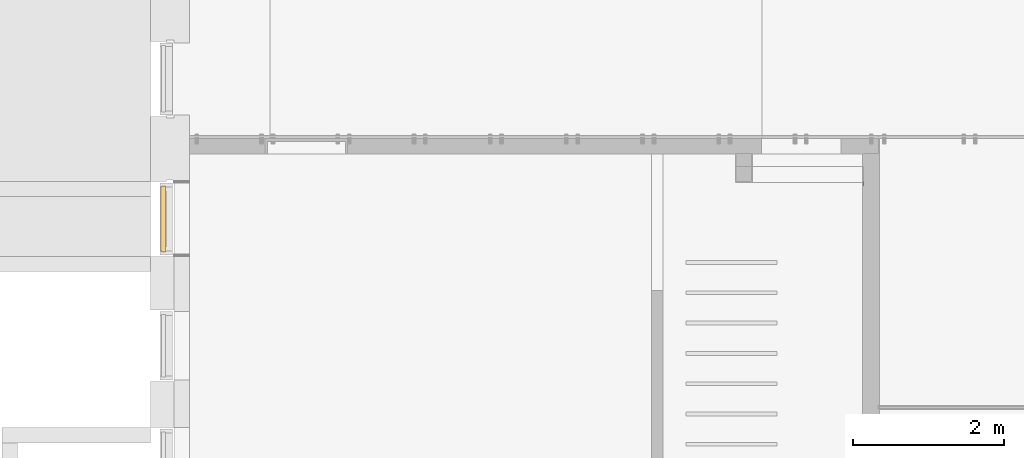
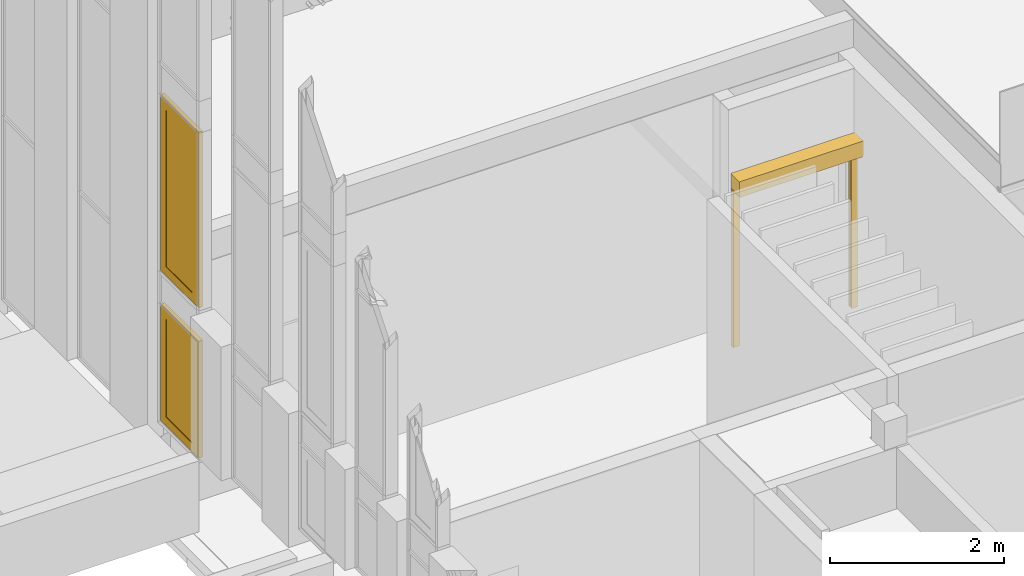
# One storey, part 158 of 246: 2 windows, 1 door, 1 element without a shape of its own.
"""IFC2X3 building model written with IfcOpenShell, lengths in millimetres."""

from ifc_helpers import new_model, entity, si_unit, converted_unit, derived_unit, money_unit, direction, frame, origin_with_axes, place, context, subcontext, project, spatial, open_shell, faceted_brep, surface_model, material, material_list, type_object, element, aggregate, save


model = new_model("IFC2X3")

# Units and contexts
model_context = context("Model", 3, precision=0.01, world=origin_with_axes(), true_north=direction((0.0, 1.0)))
body_context = subcontext(model_context, "Body", "Model", "MODEL_VIEW")
ifc_project = project(units=[si_unit("LENGTHUNIT", "METRE", prefix="MILLI"), si_unit("AREAUNIT", "SQUARE_METRE"), si_unit("VOLUMEUNIT", "CUBIC_METRE"), converted_unit("PLANEANGLEUNIT", "DEGREE", entity("IfcPlaneAngleMeasure", 0.0174532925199), si_unit("PLANEANGLEUNIT", "RADIAN"), dimensions=[0, 0, 0, 0, 0, 0, 0]), si_unit("SOLIDANGLEUNIT", "STERADIAN"), money_unit("EUR"), converted_unit("TIMEUNIT", "Year", entity("IfcTimeMeasure", 31556926.0), si_unit("TIMEUNIT", "SECOND"), dimensions=[0, 0, 1, 0, 0, 0, 0]), si_unit("MASSUNIT", "GRAM", prefix="KILO"), si_unit("THERMODYNAMICTEMPERATUREUNIT", "DEGREE_CELSIUS"), si_unit("LUMINOUSINTENSITYUNIT", "LUMEN"), si_unit("ENERGYUNIT", "JOULE", prefix="MEGA"), derived_unit("THERMALCONDUCTANCEUNIT", [(si_unit("POWERUNIT", "WATT"), 1), (si_unit("LENGTHUNIT", "METRE"), -1), (si_unit("THERMODYNAMICTEMPERATUREUNIT", "KELVIN"), -1)]), derived_unit("SPECIFICHEATCAPACITYUNIT", [(si_unit("ENERGYUNIT", "JOULE"), 1), (si_unit("MASSUNIT", "GRAM", prefix="KILO"), -1), (si_unit("THERMODYNAMICTEMPERATUREUNIT", "KELVIN"), -1)]), derived_unit("MASSDENSITYUNIT", [(si_unit("MASSUNIT", "GRAM", prefix="KILO"), 1), (si_unit("VOLUMEUNIT", "CUBIC_METRE"), -1)])], contexts=[model_context])

# Site, building, storey
site_placement = place(None, origin_with_axes())
site = spatial("IfcSite", under=ifc_project, at=site_placement, Name="L.Koidula tn 11b", CompositionType="ELEMENT")
building_placement = place(site_placement, origin_with_axes())
building = spatial("IfcBuilding", under=site, at=building_placement, Name="Rakvere Riigigümnaasium", CompositionType="ELEMENT")
storey_placement = place(building_placement, origin_with_axes())
storey = spatial("IfcBuildingStorey", under=building, at=storey_placement, Name="1.korrus 0,00", CompositionType="ELEMENT", Elevation=0.0)

# Door
ifc_material_1 = material(Name="Steel - Stainless")
door_style = type_object("IfcDoorStyle", Name="TTkardin-02(3)", ConstructionType="NOTDEFINED", OperationType="NOTDEFINED", ParameterTakesPrecedence=False, Sizeable=False)
door_placement = place(storey_placement, frame((42749.9999911, 30930.4555111, 0.0), z_axis=(0.0, 0.0, 1.0), x_axis=(-1.0, 0.0, 0.0)))
element("IfcDoor", 1, at=door_placement, inside=storey, type_object=door_style, material=ifc_material_1, Name="TTK-02", ObjectType="DOOR", context=body_context, shape_type="Brep", body=[
    faceted_brep([(-1643.80160542, 39.5255415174, 2294.78071007), (-1643.80160542, 54.6440685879, 2272.15423369), (-6.19839458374, 54.6440685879, 2272.15423369), (-6.19839458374, 39.5255415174, 2294.78071007), (-1643.80160542, 34.2166208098, 2321.47045874), (-1643.80160542, 39.5255415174, 2348.16020741), (-1643.80160542, 54.6440685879, 2370.78668378), (-1643.80160542, 77.2705433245, 2385.90521195), (-1643.80160542, 103.960290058, 2391.21413304), (-1643.80160542, 130.650036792, 2385.90521195), (-1643.80160542, 153.276511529, 2370.78668378), (-1643.80160542, 168.395038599, 2348.16020741), (-1643.80160542, 173.703959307, 2321.47045874), (-1643.80160542, 168.395038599, 2294.78071007), (-1643.80160542, 153.276511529, 2272.15423369), (-1643.80160542, 130.650036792, 2257.03570553), (-1643.80160542, 103.960290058, 2251.72678443), (-1643.80160542, 77.2705433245, 2257.03570553), (-6.19839458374, 77.2705433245, 2257.03570553), (-6.19839458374, 103.960290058, 2251.72678443), (-6.19839458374, 130.650036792, 2257.03570553), (-6.19839458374, 153.276511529, 2272.15423369), (-6.19839458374, 168.395038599, 2294.78071007), (-6.19839458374, 173.703959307, 2321.47045874), (-6.19839458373, 168.395038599, 2348.16020741), (-6.19839458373, 153.276511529, 2370.78668378), (-6.19839458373, 130.650036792, 2385.90521195), (-6.19839458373, 103.960290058, 2391.21413304), (-6.19839458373, 77.2705433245, 2385.90521195), (-6.19839458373, 54.6440685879, 2370.78668378), (-6.19839458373, 39.5255415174, 2348.16020741), (-6.19839458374, 34.2166208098, 2321.47045874)], [[[0, 1, 2, 3]], [[4, 5, 6, 7, 8, 9, 10, 11, 12, 13, 14, 15, 16, 17, 1, 0]], [[1, 17, 18, 2]], [[2, 18, 19, 20, 21, 22, 23, 24, 25, 26, 27, 28, 29, 30, 31, 3]], [[3, 31, 4, 0]], [[31, 30, 5, 4]], [[30, 29, 6, 5]], [[29, 28, 7, 6]], [[28, 27, 8, 7]], [[9, 8, 27, 26]], [[26, 25, 10, 9]], [[25, 24, 11, 10]], [[12, 11, 24, 23]], [[13, 12, 23, 22]], [[14, 13, 22, 21]], [[15, 14, 21, 20]], [[16, 15, 20, 19]], [[18, 17, 16, 19]]]),
    faceted_brep([(-1643.80160542, 7.27299842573e-06, 2200.0), (-1643.80160542, 10.4360886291, 2200.0), (-6.19839458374, 10.4360886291, 2200.0), (-6.19839458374, 7.27299931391e-06, 2200.0), (-1643.80160542, 7.27299864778e-06, 2419.82672386), (-1643.80160542, 200.597999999, 2419.82672386), (-1643.80160542, 200.597999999, 2200.0), (-1643.80160542, 56.1417102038, 2200.0), (-1643.80160542, 56.1417102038, 2205.0), (-1643.80160542, 195.598000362, 2205.0), (-1643.80160542, 195.598000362, 2414.82672386), (-1643.80160542, 5.00000691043, 2414.82672386), (-1643.80160542, 5.00000691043, 2205.0), (-1643.80160542, 10.4360886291, 2205.0), (-6.19839458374, 10.4360886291, 2205.0), (-6.19839458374, 5.00000691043, 2205.0), (-6.19839458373, 5.00000691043, 2414.82672386), (-6.19839458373, 195.598000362, 2414.82672386), (-6.19839458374, 195.598000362, 2205.0), (-6.19839458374, 56.1417102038, 2205.0), (-6.19839458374, 56.1417102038, 2200.0), (-6.19839458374, 200.597999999, 2200.0), (-6.19839458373, 200.597999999, 2419.82672386), (-6.19839458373, 7.27299953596e-06, 2419.82672386)], [[[0, 1, 2, 3]], [[4, 5, 6, 7, 8, 9, 10, 11, 12, 13, 1, 0]], [[1, 13, 14, 2]], [[3, 2, 14, 15, 16, 17, 18, 19, 20, 21, 22, 23]], [[3, 23, 4, 0]], [[23, 22, 5, 4]], [[6, 5, 22, 21]], [[7, 6, 21, 20]], [[20, 19, 8, 7]], [[19, 18, 9, 8]], [[18, 17, 10, 9]], [[11, 10, 17, 16]], [[16, 15, 12, 11]], [[15, 14, 13, 12]]]),
    faceted_brep([(-1570.40199273, 10.4360886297, 0.0), (-1570.40199273, 10.4360886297, 2200.0), (-1570.40199273, 7.27360949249e-06, 2200.0), (-1570.40199273, 7.27360949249e-06, 0.0), (-1570.40199273, 29.245245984, 0.0), (-1570.40199273, 29.245245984, 2200.0), (-1573.40199273, 29.245245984, 2200.0), (-1573.40199273, 3.00000705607, 2200.0), (-1647.0, 3.00000705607, 2200.0), (-1647.0, 56.8267270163, 2200.0), (-1573.40199273, 56.8267270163, 2200.0), (-1573.40199273, 37.288899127, 2200.0), (-1570.40199273, 37.288899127, 2200.0), (-1570.40199273, 56.1417102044, 2200.0), (-1570.40199273, 59.8267267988, 2200.0), (-1650.0, 59.8267267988, 2200.0), (-1650.0, 7.27360949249e-06, 2200.0), (-1650.0, 7.27360949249e-06, 0.0), (-1650.0, 59.8267267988, 0.0), (-1570.40199273, 59.8267267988, 0.0), (-1570.40199273, 56.1417102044, 0.0), (-1570.40199273, 37.288899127, 0.0), (-1573.40199273, 37.288899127, 0.0), (-1573.40199273, 56.8267270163, 0.0), (-1647.0, 56.8267270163, 0.0), (-1647.0, 3.00000705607, 0.0), (-1573.40199273, 3.00000705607, 0.0), (-1573.40199273, 29.245245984, 0.0)], [[[0, 1, 2, 3]], [[4, 5, 1, 0]], [[1, 5, 6, 7, 8, 9, 10, 11, 12, 13, 14, 15, 16, 2]], [[3, 2, 16, 17]], [[3, 17, 18, 19, 20, 21, 22, 23, 24, 25, 26, 27, 4, 0]], [[27, 6, 5, 4]], [[7, 6, 27, 26]], [[25, 8, 7, 26]], [[24, 9, 8, 25]], [[10, 9, 24, 23]], [[22, 11, 10, 23]], [[21, 12, 11, 22]], [[20, 13, 12, 21]], [[19, 14, 13, 20]], [[19, 18, 15, 14]], [[16, 15, 18, 17]]]),
    faceted_brep([(-79.5980072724, 10.4360886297, 0.0), (-79.5980072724, 7.27360949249e-06, 0.0), (-79.5980072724, 7.27360949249e-06, 2200.0), (-79.5980072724, 10.4360886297, 2200.0), (-79.5980072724, 29.245245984, 0.0), (-76.5980072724, 29.245245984, 0.0), (-76.5980072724, 3.00000705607, 0.0), (-3.0, 3.00000705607, 0.0), (-3.0, 56.8267270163, 0.0), (-76.5980072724, 56.8267270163, 0.0), (-76.5980072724, 37.288899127, 0.0), (-79.5980072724, 37.288899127, 0.0), (-79.5980072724, 56.1417102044, 0.0), (-79.5980072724, 59.8267267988, 0.0), (0.0, 59.8267267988, 0.0), (0.0, 7.27360949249e-06, 0.0), (0.0, 7.27360949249e-06, 2200.0), (0.0, 59.8267267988, 2200.0), (-79.5980072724, 59.8267267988, 2200.0), (-79.5980072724, 56.1417102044, 2200.0), (-79.5980072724, 37.288899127, 2200.0), (-76.5980072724, 37.288899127, 2200.0), (-76.5980072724, 56.8267270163, 2200.0), (-3.0, 56.8267270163, 2200.0), (-3.0, 3.00000705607, 2200.0), (-76.5980072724, 3.00000705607, 2200.0), (-76.5980072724, 29.245245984, 2200.0), (-79.5980072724, 29.245245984, 2200.0)], [[[0, 1, 2, 3]], [[1, 0, 4, 5, 6, 7, 8, 9, 10, 11, 12, 13, 14, 15]], [[1, 15, 16, 2]], [[3, 2, 16, 17, 18, 19, 20, 21, 22, 23, 24, 25, 26, 27]], [[4, 0, 3, 27]], [[5, 4, 27, 26]], [[25, 6, 5, 26]], [[7, 6, 25, 24]], [[8, 7, 24, 23]], [[22, 9, 8, 23]], [[10, 9, 22, 21]], [[11, 10, 21, 20]], [[12, 11, 20, 19]], [[13, 12, 19, 18]], [[13, 18, 17, 14]], [[16, 15, 14, 17]]]),
    faceted_brep([(-1643.80160542, 200.598, 2218.82672386), (-1643.80160542, 200.598, 2419.82672386), (-1643.80160542, 5.99964522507e-10, 2419.82672386), (-1643.80160542, 5.99964522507e-10, 2218.82672386), (-1650.0, 200.598, 2218.82672386), (-1650.0, 200.598, 2419.82672386), (-1650.0, 5.99964522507e-10, 2419.82672386), (-1650.0, 5.99964522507e-10, 2218.82672386)], [[[0, 1, 2, 3]], [[1, 0, 4, 5]], [[1, 5, 6, 2]], [[6, 7, 3, 2]], [[3, 7, 4, 0]], [[6, 5, 4, 7]]]),
    faceted_brep([(0.0, 200.598007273, 2218.82672386), (0.0, 200.598007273, 2419.82672386), (0.0, 7.27359927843e-06, 2419.82672386), (0.0, 7.27359927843e-06, 2218.82672386), (-6.19839458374, 200.598007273, 2218.82672386), (-6.19839458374, 200.598007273, 2419.82672386), (-6.19839458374, 7.27359927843e-06, 2419.82672386), (-6.19839458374, 7.27359927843e-06, 2218.82672386)], [[[0, 1, 2, 3]], [[1, 0, 4, 5]], [[1, 5, 6, 2]], [[6, 7, 3, 2]], [[3, 7, 4, 0]], [[6, 5, 4, 7]]]),
])

# Curtain wall, windows
curtain_wall_type = type_object("IfcCurtainWallType", Name="Curtain Wall Type", PredefinedType="NOTDEFINED")
curtain_wall_placement = place(storey_placement, frame((35156.0871538, 30435.4555151, 1604.94683277), z_axis=(0.0, 0.0, 1.0), x_axis=(1.0, 0.0, 0.0)))
curtain_wall = element("IfcCurtainWall", 2, at=curtain_wall_placement, inside=storey, type_object=curtain_wall_type, Name="KLF-04-01")
ifc_material_2 = material(Name="Alumiiniumprofiil (RAL 7021)")
ifc_material_3 = material(Name="Klaaspakett 3x")
ifc_material_list = material_list([ifc_material_2, ifc_material_3])
window_style_1 = type_object("IfcWindowStyle", Name="876 x 2476 x 54", ConstructionType="NOTDEFINED", OperationType="NOTDEFINED", ParameterTakesPrecedence=False, Sizeable=False)
window_1_placement = place(curtain_wall_placement, frame((0.0, 0.0, 3390.00006988), z_axis=(0.0, 0.0, 1.0), x_axis=(0.0, 1.0, 0.0)))
window_1 = element("IfcWindow", 3, at=window_1_placement, type_object=window_style_1, material=ifc_material_list, Name="KLF-04-A-1", ObjectType="WINDOW", context=body_context, shape_type="SurfaceModel", body=[
    surface_model("IfcShellBasedSurfaceModel", [(425.000067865, 36.0, -1225.0), (371.000067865, 36.0, -1171.0), (-371.000081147, 36.0, -1171.0), (-425.000081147, 36.0, -1225.0)], [open_shell([[[0, 1, 2, 3]]])]),
    surface_model("IfcShellBasedSurfaceModel", [(-425.000081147, 36.0, -1225.0), (-371.000081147, 36.0, -1171.0), (-371.000081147, 36.0, 1171.0), (-425.000081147, 36.0, 1225.0)], [open_shell([[[0, 1, 2, 3]]])]),
    surface_model("IfcShellBasedSurfaceModel", [(425.000067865, 36.0, 1225.0), (-425.000081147, 36.0, 1225.0), (-371.000081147, 36.0, 1171.0), (371.000067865, 36.0, 1171.0)], [open_shell([[[0, 1, 2, 3]]])]),
    surface_model("IfcShellBasedSurfaceModel", [(425.000067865, 36.0, -1225.0), (425.000067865, 36.0, 1225.0), (371.000067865, 36.0, 1171.0), (371.000067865, 36.0, -1171.0)], [open_shell([[[0, 1, 2, 3]]])]),
    faceted_brep([(425.000067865, -34.0, -1225.0), (-425.000081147, -34.0, -1225.0), (-425.000081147, 36.0, -1225.0), (425.000067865, 36.0, -1225.0), (371.000067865, -34.0, -1171.0), (-371.000081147, -34.0, -1171.0), (-371.000081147, 36.0, -1171.0), (371.000067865, 36.0, -1171.0)], [[[0, 1, 2, 3]], [[0, 4, 5, 1]], [[1, 5, 6, 2]], [[3, 2, 6, 7]], [[4, 0, 3, 7]], [[5, 4, 7, 6]]]),
    faceted_brep([(-425.000081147, -34.0, -1225.0), (-425.000081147, -34.0, 1225.0), (-425.000081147, 36.0, 1225.0), (-425.000081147, 36.0, -1225.0), (-371.000081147, -34.0, -1171.0), (-371.000081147, -34.0, 1171.0), (-371.000081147, 36.0, 1171.0), (-371.000081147, 36.0, -1171.0)], [[[0, 1, 2, 3]], [[0, 4, 5, 1]], [[1, 5, 6, 2]], [[3, 2, 6, 7]], [[4, 0, 3, 7]], [[5, 4, 7, 6]]]),
    faceted_brep([(425.000067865, -34.0, 1225.0), (371.000067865, -34.0, 1171.0), (371.000067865, 36.0, 1171.0), (425.000067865, 36.0, 1225.0), (-425.000081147, -34.0, 1225.0), (-371.000081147, -34.0, 1171.0), (-371.000081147, 36.0, 1171.0), (-425.000081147, 36.0, 1225.0)], [[[0, 1, 2, 3]], [[0, 4, 5, 1]], [[1, 5, 6, 2]], [[3, 2, 6, 7]], [[4, 0, 3, 7]], [[5, 4, 7, 6]]]),
    faceted_brep([(425.000067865, -34.0, -1225.0), (371.000067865, -34.0, -1171.0), (371.000067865, 36.0, -1171.0), (425.000067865, 36.0, -1225.0), (425.000067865, -34.0, 1225.0), (371.000067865, -34.0, 1171.0), (371.000067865, 36.0, 1171.0), (425.000067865, 36.0, 1225.0)], [[[0, 1, 2, 3]], [[0, 4, 5, 1]], [[1, 5, 6, 2]], [[3, 2, 6, 7]], [[4, 0, 3, 7]], [[5, 4, 7, 6]]]),
    faceted_brep([(438.000076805, -27.0, -1238.00000894), (-438.000052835, -27.0, -1238.00000894), (-438.000052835, 27.0, -1238.00000894), (438.000076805, 27.0, -1238.00000894), (425.000067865, -27.0, -1225.0), (-425.000081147, -27.0, -1225.0), (-425.000081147, 27.0, -1225.0), (425.000067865, 27.0, -1225.0)], [[[0, 1, 2, 3]], [[0, 4, 5, 1]], [[1, 5, 6, 2]], [[3, 2, 6, 7]], [[4, 0, 3, 7]], [[5, 4, 7, 6]]]),
    faceted_brep([(-438.000052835, -27.0, -1238.00000894), (-438.000052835, -27.0, 1238.00000894), (-438.000052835, 27.0, 1238.00000894), (-438.000052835, 27.0, -1238.00000894), (-425.000081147, -27.0, -1225.0), (-425.000081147, -27.0, 1225.0), (-425.000081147, 27.0, 1225.0), (-425.000081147, 27.0, -1225.0)], [[[0, 1, 2, 3]], [[0, 4, 5, 1]], [[1, 5, 6, 2]], [[3, 2, 6, 7]], [[4, 0, 3, 7]], [[5, 4, 7, 6]]]),
    faceted_brep([(-438.000052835, -27.0, 1238.00000894), (438.000076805, -27.0, 1238.00000894), (438.000076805, 27.0, 1238.00000894), (-438.000052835, 27.0, 1238.00000894), (-425.000081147, -27.0, 1225.0), (425.000067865, -27.0, 1225.0), (425.000067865, 27.0, 1225.0), (-425.000081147, 27.0, 1225.0)], [[[0, 1, 2, 3]], [[0, 4, 5, 1]], [[1, 5, 6, 2]], [[3, 2, 6, 7]], [[4, 0, 3, 7]], [[5, 4, 7, 6]]]),
    faceted_brep([(438.000076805, -27.0, 1238.00000894), (438.000076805, -27.0, -1238.00000894), (438.000076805, 27.0, -1238.00000894), (438.000076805, 27.0, 1238.00000894), (425.000067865, -27.0, 1225.0), (425.000067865, -27.0, -1225.0), (425.000067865, 27.0, -1225.0), (425.000067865, 27.0, 1225.0)], [[[0, 1, 2, 3]], [[0, 4, 5, 1]], [[1, 5, 6, 2]], [[3, 2, 6, 7]], [[4, 0, 3, 7]], [[5, 4, 7, 6]]]),
    faceted_brep([(303.000067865, 36.0, -1103.0), (303.000067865, -44.0, -1103.0), (303.000067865, -44.0, 1103.0), (303.000067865, 36.0, 1103.0), (371.000067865, 36.0, -1171.0), (371.000067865, -44.0, -1171.0), (371.000067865, -44.0, 1171.0), (371.000067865, 36.0, 1171.0)], [[[0, 1, 2, 3]], [[4, 5, 1, 0]], [[1, 5, 6, 2]], [[3, 2, 6, 7]], [[0, 3, 7, 4]], [[7, 6, 5, 4]]]),
    faceted_brep([(-371.000081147, 36.0, -1171.0), (-371.000081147, -44.0, -1171.0), (-371.000081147, -44.0, 1171.0), (-371.000081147, 36.0, 1171.0), (-303.000081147, 36.0, -1103.0), (-303.000081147, -44.0, -1103.0), (-303.000081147, -44.0, 1103.0), (-303.000081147, 36.0, 1103.0)], [[[0, 1, 2, 3]], [[4, 5, 1, 0]], [[1, 5, 6, 2]], [[3, 2, 6, 7]], [[0, 3, 7, 4]], [[7, 6, 5, 4]]]),
    faceted_brep([(-371.000081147, 36.0, -1171.0), (-371.000081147, -44.0, -1171.0), (-303.000081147, -44.0, -1103.0), (-303.000081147, 36.0, -1103.0), (371.000067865, 36.0, -1171.0), (371.000067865, -44.0, -1171.0), (303.000067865, -44.0, -1103.0), (303.000067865, 36.0, -1103.0)], [[[0, 1, 2, 3]], [[4, 5, 1, 0]], [[1, 5, 6, 2]], [[3, 2, 6, 7]], [[0, 3, 7, 4]], [[7, 6, 5, 4]]]),
    faceted_brep([(371.000067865, 36.0, 1171.0), (371.000067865, -44.0, 1171.0), (303.000067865, -44.0, 1103.0), (303.000067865, 36.0, 1103.0), (-371.000081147, 36.0, 1171.0), (-371.000081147, -44.0, 1171.0), (-303.000081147, -44.0, 1103.0), (-303.000081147, 36.0, 1103.0)], [[[0, 1, 2, 3]], [[4, 5, 1, 0]], [[1, 5, 6, 2]], [[3, 2, 6, 7]], [[0, 3, 7, 4]], [[7, 6, 5, 4]]]),
    faceted_brep([(303.000067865, 27.0, -1103.0), (303.000067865, 11.0, -1103.0), (-303.000081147, 11.0, -1103.0), (-303.000081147, 27.0, -1103.0), (303.000067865, 27.0, 1103.0), (303.000067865, 11.0, 1103.0), (-303.000081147, 11.0, 1103.0), (-303.000081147, 27.0, 1103.0)], [[[0, 1, 2, 3]], [[4, 5, 1, 0]], [[1, 5, 6, 2]], [[3, 2, 6, 7]], [[0, 3, 7, 4]], [[7, 6, 5, 4]]]),
])
window_style_2 = type_object("IfcWindowStyle", Name="876 x 1646 x 54", ConstructionType="NOTDEFINED", OperationType="NOTDEFINED", ParameterTakesPrecedence=False, Sizeable=False)
window_2_placement = place(curtain_wall_placement, frame((0.0, -2.79233347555e-06, 847.500034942), z_axis=(0.0, 0.0, 1.0), x_axis=(0.0, 1.0, 0.0)))
window_2 = element("IfcWindow", 4, at=window_2_placement, type_object=window_style_2, material=ifc_material_list, Name="KLF-04-A-2", ObjectType="WINDOW", context=body_context, shape_type="SurfaceModel", body=[
    surface_model("IfcShellBasedSurfaceModel", [(425.000058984, 36.0, -797.500023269), (371.000058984, 36.0, -743.500023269), (-371.00006368, 36.0, -743.500023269), (-425.00006368, 36.0, -797.500023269)], [open_shell([[[0, 1, 2, 3]]])]),
    surface_model("IfcShellBasedSurfaceModel", [(-425.00006368, 36.0, -797.500023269), (-371.00006368, 36.0, -743.500023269), (-371.00006368, 36.0, 768.500041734), (-425.00006368, 36.0, 822.500041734)], [open_shell([[[0, 1, 2, 3]]])]),
    surface_model("IfcShellBasedSurfaceModel", [(425.000058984, 36.0, 822.500041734), (-425.00006368, 36.0, 822.500041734), (-371.00006368, 36.0, 768.500041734), (371.000058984, 36.0, 768.500041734)], [open_shell([[[0, 1, 2, 3]]])]),
    surface_model("IfcShellBasedSurfaceModel", [(425.000058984, 36.0, -797.500023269), (425.000058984, 36.0, 822.500041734), (371.000058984, 36.0, 768.500041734), (371.000058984, 36.0, -743.500023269)], [open_shell([[[0, 1, 2, 3]]])]),
    faceted_brep([(425.000058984, -34.0, -797.500023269), (-425.00006368, -34.0, -797.500023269), (-425.00006368, 36.0, -797.500023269), (425.000058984, 36.0, -797.500023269), (371.000058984, -34.0, -743.500023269), (-371.00006368, -34.0, -743.500023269), (-371.00006368, 36.0, -743.500023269), (371.000058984, 36.0, -743.500023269)], [[[0, 1, 2, 3]], [[0, 4, 5, 1]], [[1, 5, 6, 2]], [[3, 2, 6, 7]], [[4, 0, 3, 7]], [[5, 4, 7, 6]]]),
    faceted_brep([(-425.00006368, -34.0, -797.500023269), (-425.00006368, -34.0, 822.500041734), (-425.00006368, 36.0, 822.500041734), (-425.00006368, 36.0, -797.500023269), (-371.00006368, -34.0, -743.500023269), (-371.00006368, -34.0, 768.500041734), (-371.00006368, 36.0, 768.500041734), (-371.00006368, 36.0, -743.500023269)], [[[0, 1, 2, 3]], [[0, 4, 5, 1]], [[1, 5, 6, 2]], [[3, 2, 6, 7]], [[4, 0, 3, 7]], [[5, 4, 7, 6]]]),
    faceted_brep([(425.000058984, -34.0, 822.500041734), (371.000058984, -34.0, 768.500041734), (371.000058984, 36.0, 768.500041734), (425.000058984, 36.0, 822.500041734), (-425.00006368, -34.0, 822.500041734), (-371.00006368, -34.0, 768.500041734), (-371.00006368, 36.0, 768.500041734), (-425.00006368, 36.0, 822.500041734)], [[[0, 1, 2, 3]], [[0, 4, 5, 1]], [[1, 5, 6, 2]], [[3, 2, 6, 7]], [[4, 0, 3, 7]], [[5, 4, 7, 6]]]),
    faceted_brep([(425.000058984, -34.0, -797.500023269), (371.000058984, -34.0, -743.500023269), (371.000058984, 36.0, -743.500023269), (425.000058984, 36.0, -797.500023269), (425.000058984, -34.0, 822.500041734), (371.000058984, -34.0, 768.500041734), (371.000058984, 36.0, 768.500041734), (425.000058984, 36.0, 822.500041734)], [[[0, 1, 2, 3]], [[0, 4, 5, 1]], [[1, 5, 6, 2]], [[3, 2, 6, 7]], [[4, 0, 3, 7]], [[5, 4, 7, 6]]]),
    faceted_brep([(438.000065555, -27.0, -810.50002984), (-438.000070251, -27.0, -810.50002984), (-438.000070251, 27.0, -810.50002984), (438.000065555, 27.0, -810.50002984), (425.000058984, -27.0, -797.500023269), (-425.00006368, -27.0, -797.500023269), (-425.00006368, 27.0, -797.500023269), (425.000058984, 27.0, -797.500023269)], [[[0, 1, 2, 3]], [[0, 4, 5, 1]], [[1, 5, 6, 2]], [[3, 2, 6, 7]], [[4, 0, 3, 7]], [[5, 4, 7, 6]]]),
    faceted_brep([(-438.000070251, -27.0, -810.50002984), (-438.000070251, -27.0, 835.500023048), (-438.000070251, 27.0, 835.500023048), (-438.000070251, 27.0, -810.50002984), (-425.00006368, -27.0, -797.500023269), (-425.00006368, -27.0, 822.500041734), (-425.00006368, 27.0, 822.500041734), (-425.00006368, 27.0, -797.500023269)], [[[0, 1, 2, 3]], [[0, 4, 5, 1]], [[1, 5, 6, 2]], [[3, 2, 6, 7]], [[4, 0, 3, 7]], [[5, 4, 7, 6]]]),
    faceted_brep([(-438.000070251, -27.0, 835.500023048), (438.000065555, -27.0, 835.500023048), (438.000065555, 27.0, 835.500023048), (-438.000070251, 27.0, 835.500023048), (-425.00006368, -27.0, 822.500041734), (425.000058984, -27.0, 822.500041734), (425.000058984, 27.0, 822.500041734), (-425.00006368, 27.0, 822.500041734)], [[[0, 1, 2, 3]], [[0, 4, 5, 1]], [[1, 5, 6, 2]], [[3, 2, 6, 7]], [[4, 0, 3, 7]], [[5, 4, 7, 6]]]),
    faceted_brep([(438.000065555, -27.0, 835.500023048), (438.000065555, -27.0, -810.50002984), (438.000065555, 27.0, -810.50002984), (438.000065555, 27.0, 835.500023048), (425.000058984, -27.0, 822.500041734), (425.000058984, -27.0, -797.500023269), (425.000058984, 27.0, -797.500023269), (425.000058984, 27.0, 822.500041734)], [[[0, 1, 2, 3]], [[0, 4, 5, 1]], [[1, 5, 6, 2]], [[3, 2, 6, 7]], [[4, 0, 3, 7]], [[5, 4, 7, 6]]]),
    faceted_brep([(303.000058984, 36.0, -675.500023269), (303.000058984, -44.0, -675.500023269), (303.000058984, -44.0, 700.500041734), (303.000058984, 36.0, 700.500041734), (371.000058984, 36.0, -743.500023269), (371.000058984, -44.0, -743.500023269), (371.000058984, -44.0, 768.500041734), (371.000058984, 36.0, 768.500041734)], [[[0, 1, 2, 3]], [[4, 5, 1, 0]], [[1, 5, 6, 2]], [[3, 2, 6, 7]], [[0, 3, 7, 4]], [[7, 6, 5, 4]]]),
    faceted_brep([(-371.00006368, 36.0, -743.500023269), (-371.00006368, -44.0, -743.500023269), (-371.00006368, -44.0, 768.500041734), (-371.00006368, 36.0, 768.500041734), (-303.00006368, 36.0, -675.500023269), (-303.00006368, -44.0, -675.500023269), (-303.00006368, -44.0, 700.500041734), (-303.00006368, 36.0, 700.500041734)], [[[0, 1, 2, 3]], [[4, 5, 1, 0]], [[1, 5, 6, 2]], [[3, 2, 6, 7]], [[0, 3, 7, 4]], [[7, 6, 5, 4]]]),
    faceted_brep([(-371.00006368, 36.0, -743.500023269), (-371.00006368, -44.0, -743.500023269), (-303.00006368, -44.0, -675.500023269), (-303.00006368, 36.0, -675.500023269), (371.000058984, 36.0, -743.500023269), (371.000058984, -44.0, -743.500023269), (303.000058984, -44.0, -675.500023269), (303.000058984, 36.0, -675.500023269)], [[[0, 1, 2, 3]], [[4, 5, 1, 0]], [[1, 5, 6, 2]], [[3, 2, 6, 7]], [[0, 3, 7, 4]], [[7, 6, 5, 4]]]),
    faceted_brep([(371.000058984, 36.0, 768.500041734), (371.000058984, -44.0, 768.500041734), (303.000058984, -44.0, 700.500041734), (303.000058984, 36.0, 700.500041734), (-371.00006368, 36.0, 768.500041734), (-371.00006368, -44.0, 768.500041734), (-303.00006368, -44.0, 700.500041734), (-303.00006368, 36.0, 700.500041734)], [[[0, 1, 2, 3]], [[4, 5, 1, 0]], [[1, 5, 6, 2]], [[3, 2, 6, 7]], [[0, 3, 7, 4]], [[7, 6, 5, 4]]]),
    faceted_brep([(303.000058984, 27.0, -675.500023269), (303.000058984, 11.0, -675.500023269), (-303.00006368, 11.0, -675.500023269), (-303.00006368, 27.0, -675.500023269), (303.000058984, 27.0, 700.500041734), (303.000058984, 11.0, 700.500041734), (-303.00006368, 11.0, 700.500041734), (-303.00006368, 27.0, 700.500041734)], [[[0, 1, 2, 3]], [[4, 5, 1, 0]], [[1, 5, 6, 2]], [[3, 2, 6, 7]], [[0, 3, 7, 4]], [[7, 6, 5, 4]]]),
])
aggregate(curtain_wall, [window_1, window_2])

save(model, "model.ifc")
